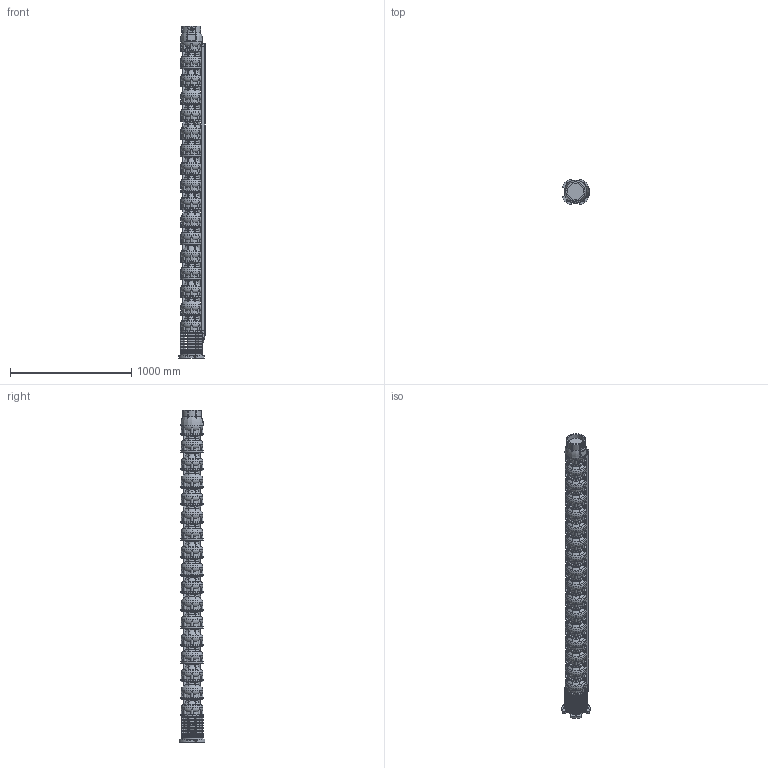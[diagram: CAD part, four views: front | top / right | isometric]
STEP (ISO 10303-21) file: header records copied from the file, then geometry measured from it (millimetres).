
FILE_DESCRIPTION(/* description */ ('Unknown'),/* implementation_level */ '2;1');
FILE_NAME(/* name */ 'VSI134-16_WR_M10-50_DME',/* time_stamp */ '2023-09-14T14:43:58+02:00',/* author */ ('Unknown'),/* organization */ ('Unknown'),/* preprocessor_version */ 'ST-DEVELOPER v18.102',/* originating_system */ 'Solid Edge',/* authorisation */ 'Unknown');
FILE_SCHEMA (('INTEGRATED_CNC_SCHEMA','AUTOMOTIVE_DESIGN {1 0 10303 214 3 1 1}'));
Products named in the file (12): VSI134-16_WR_M10-50_DME; VSI134_testata; VSI134_diffusore; VSI134_supporto_8×8; VSI134_adattatore_8×10; VSI134_filtro_A; VSI134_filtro_B; VSI134_terminale_top_copricavo_medio; VSI134_terminale_bottom_copricavo_medio; MID 134-16; M5X8_UNI7687; VSI134_giunto_8×10
Assembly tree (35 placements, depth 2):
  VSI134-16_WR_M10-50_DME
    VSI134_testata
    VSI134_diffusore  x16
    VSI134_supporto_8×8
    VSI134_adattatore_8×10
    VSI134_filtro_A
    VSI134_filtro_B
    VSI134_terminale_top_copricavo_medio
    VSI134_terminale_bottom_copricavo_medio
    MID 134-16
    M5X8_UNI7687  x10
    VSI134_giunto_8×10
Bounding box: 221.78 x 213.16 x 2738 mm (x, y, z)
Volume: 50988165.2 mm3; surface area: 3915844.9 mm2
Topology: 74 solids, 76 shells, 5135 faces, 14457 edges, 9658 vertices
Faces by surface type: plane 3633, torus 742, cylinder 648, cone 69, bspline 31, sphere 12
Full cylindrical faces by diameter (mm): 2.4 x2, 3 x2, 4.2 x16, 5 x10, 5.5 x8, 14 x4, 16 x4, 17.5 x4, 26 x1, 30 x4, 44 x1, 65 x1, 69 x1, 74 x1, 84 x1, 98 x1, 127 x2, 135.472 x1, 157 x1, 182 x17
Entity records: 85363 total; most frequent: CARTESIAN_POINT 18300, ORIENTED_EDGE 13946, DIRECTION 13464, EDGE_CURVE 6973, VERTEX_POINT 4707, AXIS2_PLACEMENT_3D 4610, LINE 4244, VECTOR 4244
